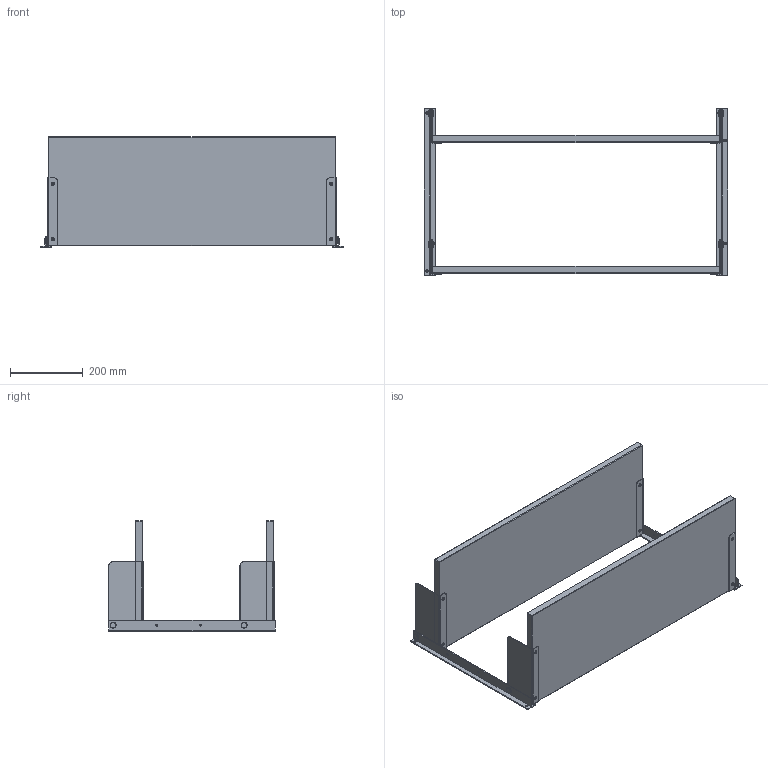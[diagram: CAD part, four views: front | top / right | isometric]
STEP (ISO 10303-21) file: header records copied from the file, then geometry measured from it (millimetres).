
FILE_DESCRIPTION (( 'STEP AP214' ), '1' );
FILE_NAME ('FW 450.STEP', '2022-04-25T09:32:45', ( '' ), ( '' ), 'SwSTEP 2.0', 'SolidWorks 2021', '' );
FILE_SCHEMA (( 'AUTOMOTIVE_DESIGN' ));
Length unit declared in the file: millimetre
Products named in the file (9): 419 8002; 419 9005; 419 9009; DIN 467 M4.stp; 419 9006; FW 450; DIN 653 M4 12 mm.stp; M3x5x4 Threaded Insert; 419 9001
Assembly tree (15 placements, depth 3):
  FW 450
    419 9009  x2
    419 8002  x2
      419 9001
      419 9005
      419 9006
      DIN 467 M4.stp
      DIN 653 M4 12 mm.stp
      M3x5x4 Threaded Insert
Bounding box: 832.6 x 457.5 x 303.3 mm (x, y, z)
Volume: 9786859.8 mm3; surface area: 1324951.3 mm2
Topology: 24 solids, 24 shells, 4328 faces, 9500 edges, 5272 vertices
Faces by surface type: plane 1688, cone 1576, cylinder 1000, torus 64
Entity records: 30571 total; most frequent: CARTESIAN_POINT 6606, DIRECTION 5125, ORIENTED_EDGE 5074, EDGE_CURVE 2537, AXIS2_PLACEMENT_3D 2161, VERTEX_POINT 1410, EDGE_LOOP 1195, ADVANCED_FACE 1152
